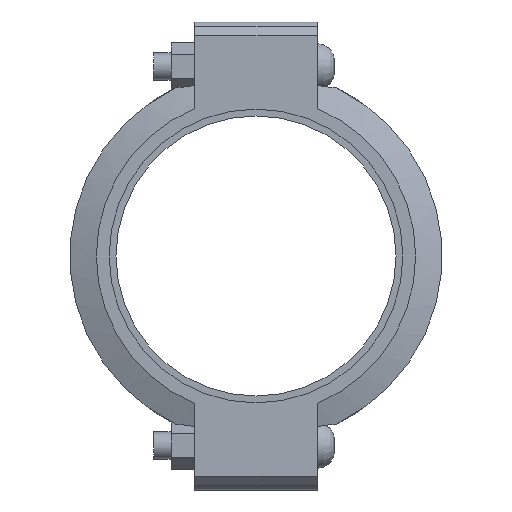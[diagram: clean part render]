
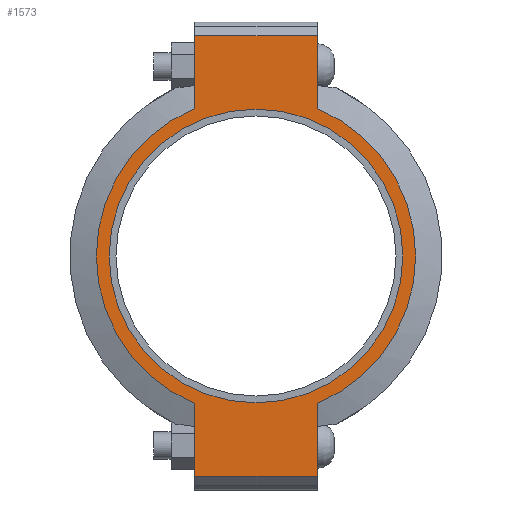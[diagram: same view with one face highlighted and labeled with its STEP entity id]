
A CAD part, left-side view. The second image highlights one B-rep face of the part: STEP entity #1573.
In plain terms, the highlighted planar face has unit normal (-1, 0, 0) as drawn and (0, 0, 1) by its records, which use the part's own axes.
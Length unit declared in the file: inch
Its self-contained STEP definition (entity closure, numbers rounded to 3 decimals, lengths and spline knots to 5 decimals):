
#144=LINE('',#2726,#233);
#155=LINE('',#2777,#244);
#161=LINE('',#2803,#250);
#163=LINE('',#2806,#252);
#164=LINE('',#2811,#253);
#165=LINE('',#2812,#254);
#233=VECTOR('',#2230,0.3937);
#244=VECTOR('',#2261,0.3937);
#250=VECTOR('',#2279,0.3937);
#252=VECTOR('',#2283,0.3937);
#253=VECTOR('',#2288,0.3937);
#254=VECTOR('',#2289,0.3937);
#316=FACE_BOUND('',#493,.T.);
#384=FACE_OUTER_BOUND('',#492,.T.);
#492=EDGE_LOOP('',(#1268,#1269,#1270,#1271,#1272,#1273,#1274,#1275));
#493=EDGE_LOOP('',(#1276));
#575=CIRCLE('',#1810,5.375);
#599=CIRCLE('',#1862,5.845);
#600=CIRCLE('',#1863,5.845);
#671=VERTEX_POINT('',#2552);
#712=VERTEX_POINT('',#2723);
#713=VERTEX_POINT('',#2725);
#730=VERTEX_POINT('',#2772);
#731=VERTEX_POINT('',#2776);
#738=VERTEX_POINT('',#2798);
#739=VERTEX_POINT('',#2802);
#740=VERTEX_POINT('',#2808);
#741=VERTEX_POINT('',#2810);
#835=EDGE_CURVE('',#671,#671,#575,.T.);
#892=EDGE_CURVE('',#713,#712,#144,.T.);
#913=EDGE_CURVE('',#731,#730,#155,.T.);
#924=EDGE_CURVE('',#739,#738,#161,.T.);
#926=EDGE_CURVE('',#739,#712,#163,.T.);
#927=EDGE_CURVE('',#738,#740,#599,.T.);
#928=EDGE_CURVE('',#740,#741,#164,.T.);
#929=EDGE_CURVE('',#731,#741,#165,.T.);
#930=EDGE_CURVE('',#730,#713,#600,.T.);
#1268=ORIENTED_EDGE('',*,*,#926,.F.);
#1269=ORIENTED_EDGE('',*,*,#924,.T.);
#1270=ORIENTED_EDGE('',*,*,#927,.T.);
#1271=ORIENTED_EDGE('',*,*,#928,.T.);
#1272=ORIENTED_EDGE('',*,*,#929,.F.);
#1273=ORIENTED_EDGE('',*,*,#913,.T.);
#1274=ORIENTED_EDGE('',*,*,#930,.T.);
#1275=ORIENTED_EDGE('',*,*,#892,.T.);
#1276=ORIENTED_EDGE('',*,*,#835,.T.);
#1413=PLANE('',#1861);
#1573=ADVANCED_FACE('',(#384,#316),#1413,.T.);
#1810=AXIS2_PLACEMENT_3D('',#2554,#2120,#2121);
#1861=AXIS2_PLACEMENT_3D('',#2807,#2284,#2285);
#1862=AXIS2_PLACEMENT_3D('',#2809,#2286,#2287);
#1863=AXIS2_PLACEMENT_3D('',#2813,#2290,#2291);
#2120=DIRECTION('center_axis',(0.,0.,-1.));
#2121=DIRECTION('ref_axis',(1.,0.,0.));
#2230=DIRECTION('',(1.,0.,0.));
#2261=DIRECTION('',(1.,0.,0.));
#2279=DIRECTION('',(-1.,0.,0.));
#2283=DIRECTION('',(0.,-1.,0.));
#2284=DIRECTION('center_axis',(0.,0.,1.));
#2285=DIRECTION('ref_axis',(-1.,0.,0.));
#2286=DIRECTION('center_axis',(0.,0.,1.));
#2287=DIRECTION('ref_axis',(1.,0.,0.));
#2288=DIRECTION('',(-1.,0.,0.));
#2289=DIRECTION('',(0.,1.,0.));
#2290=DIRECTION('center_axis',(0.,0.,1.));
#2291=DIRECTION('ref_axis',(1.,0.,0.));
#2552=CARTESIAN_POINT('',(-5.375,0.,1.315));
#2554=CARTESIAN_POINT('Origin',(0.,0.,1.315));
#2723=CARTESIAN_POINT('',(8.065,-2.25,1.315));
#2725=CARTESIAN_POINT('',(5.39458,-2.25,1.315));
#2726=CARTESIAN_POINT('',(-8.565,-2.25,1.315));
#2772=CARTESIAN_POINT('',(-5.39458,-2.25,1.315));
#2776=CARTESIAN_POINT('',(-8.065,-2.25,1.315));
#2777=CARTESIAN_POINT('',(-8.565,-2.25,1.315));
#2798=CARTESIAN_POINT('',(5.39458,2.25,1.315));
#2802=CARTESIAN_POINT('',(8.065,2.25,1.315));
#2803=CARTESIAN_POINT('',(8.565,2.25,1.315));
#2806=CARTESIAN_POINT('',(8.065,-1.125,1.315));
#2807=CARTESIAN_POINT('Origin',(0.,0.,
1.315));
#2808=CARTESIAN_POINT('',(-5.39458,2.25,1.315));
#2809=CARTESIAN_POINT('Origin',(0.,0.,1.315));
#2810=CARTESIAN_POINT('',(-8.065,2.25,1.315));
#2811=CARTESIAN_POINT('',(8.565,2.25,1.315));
#2812=CARTESIAN_POINT('',(-8.065,1.125,1.315));
#2813=CARTESIAN_POINT('Origin',(0.,0.,1.315));
